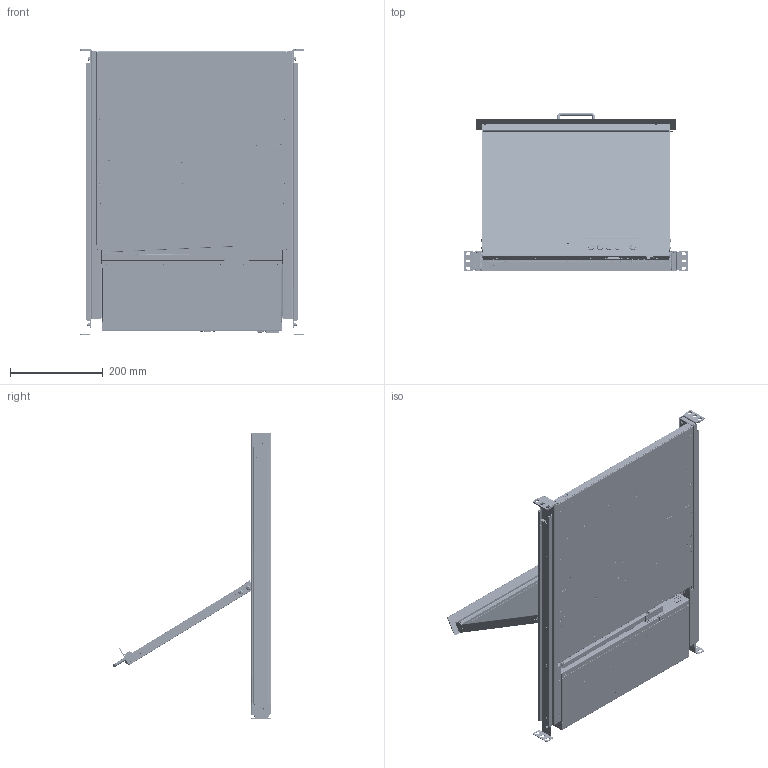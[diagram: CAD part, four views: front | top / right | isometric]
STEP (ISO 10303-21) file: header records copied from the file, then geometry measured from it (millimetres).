
FILE_DESCRIPTION (( 'STEP AP203' ), '1' );
FILE_NAME ('RACKMUX-4K17-N-1.STEP', '2021-07-20T14:52:42', ( '' ), ( '' ), 'SwSTEP 2.0', 'SolidWorks 2011', '' );
FILE_SCHEMA (( 'CONFIG_CONTROL_DESIGN' ));
Products named in the file (1): RACKMUX-4K17-N-1
Bounding box: 483.03 x 342.13 x 615.25 mm (x, y, z)
Volume: 1981533 mm3; surface area: 3169881.9 mm2
Topology: 367 solids, 367 shells, 23649 faces, 61438 edges, 39159 vertices
Faces by surface type: plane 13087, cylinder 7747, bspline 1154, cone 1105, torus 397, sphere 159
Entity records: 796725 total; most frequent: CARTESIAN_POINT 220311, ORIENTED_EDGE 122600, DIRECTION 114580, EDGE_CURVE 61300, VERTEX_POINT 39146, VECTOR 38302, LINE 38302, AXIS2_PLACEMENT_3D 38139
